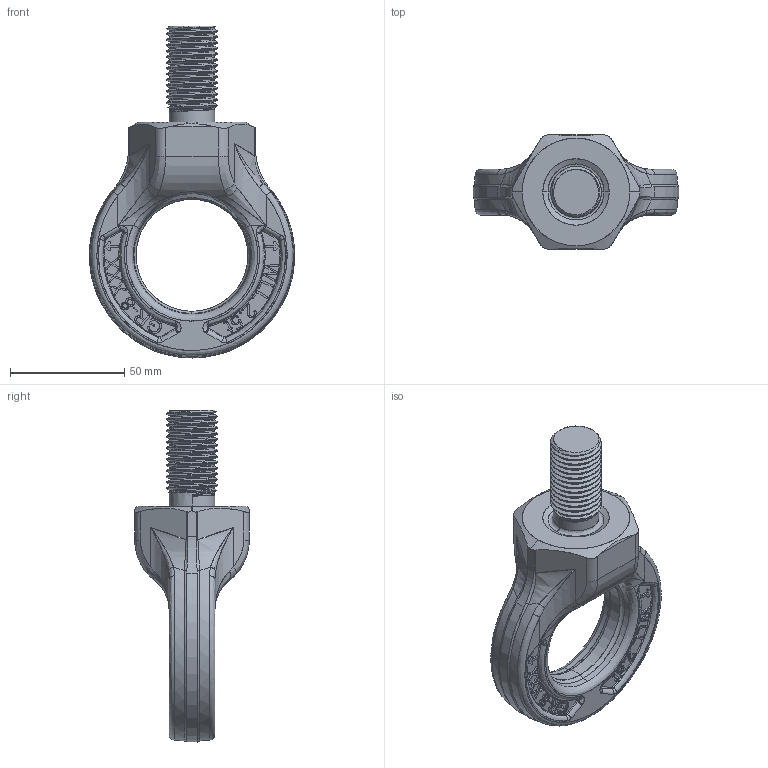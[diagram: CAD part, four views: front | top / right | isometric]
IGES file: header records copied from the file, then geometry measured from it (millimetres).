
Start section: SolidWorks IGES file using analytic representation for surfaces
Global section: file name: Y:\NEW DRAWING DATABASE\TOWNLEY\EB EN\GRADE 8\Marketing\CAD Files for Website\HTEB22.IGS; native system: SolidWorks 2024; preprocessor: SolidWorks 2024; author: Tool Room; date: 251201.095759; units: millimetre
Bounding box: 89.7 x 50 x 145 mm (x, y, z)
Surface area: 26386.8 mm2 (no closed solid volume)
Topology: 0 solids, 0 shells, 788 faces, 11895 edges, 11887 vertices
Faces by surface type: bspline 689, revolution 99
